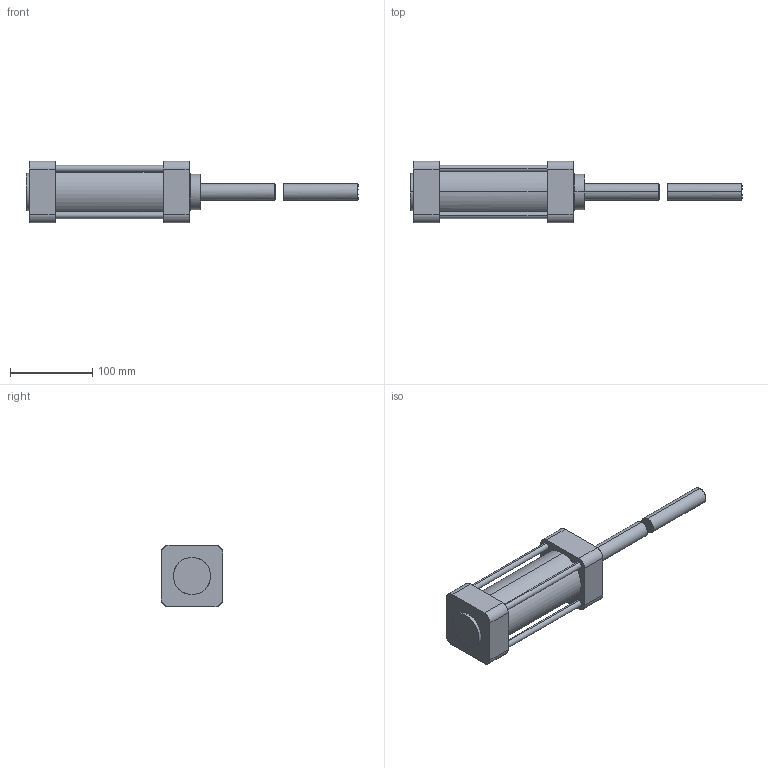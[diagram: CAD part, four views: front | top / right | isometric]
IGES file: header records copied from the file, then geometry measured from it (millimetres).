
Global section: file name: E:\UnigraphicsGraphicData\MISUMI_PRESS-PARTS\IGES\3d_lthcs63-100_04292_r00.igs; native system: NX V5.0; preprocessor: UGS NX IGES V5.0; author: MISUMI; date: 20110105.161246; units: millimetre
Bounding box: 403 x 75 x 75 mm (x, y, z)
Surface area: 88818.2 mm2 (no closed solid volume)
Topology: 0 solids, 0 shells, 74 faces, 624 edges, 624 vertices
Faces by surface type: bspline 74
